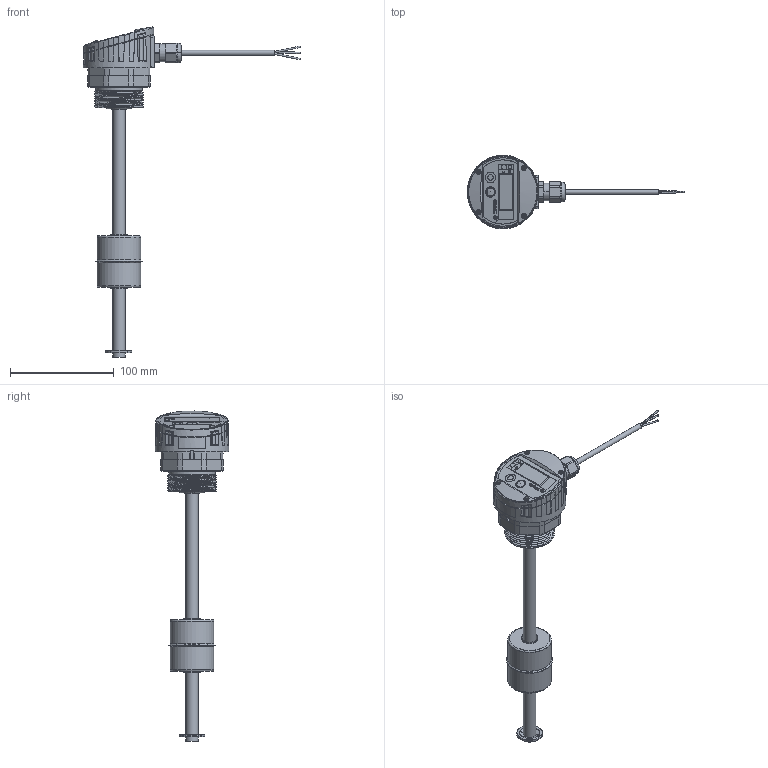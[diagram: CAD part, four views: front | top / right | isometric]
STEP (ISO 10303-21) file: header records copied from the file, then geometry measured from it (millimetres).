
FILE_DESCRIPTION(/* description */ (''),/* implementation_level */ '2;1');
FILE_NAME(/* name */ '2..3_A_1-LVL-N.stp',/* time_stamp */ '2019-12-13T10:28:29+01:00',/* author */ (''),/* organization */ (''),/* preprocessor_version */ 'ST-DEVELOPER v16',/* originating_system */ 'SIEMENS PLM Software NX 11.0',/* authorisation */ '');
FILE_SCHEMA (('AUTOMOTIVE_DESIGN { 1 0 10303 214 3 1 1 1 }'));
Products named in the file (1): pr1m01944044fv39
Bounding box: 209.25 x 70.96 x 317.98 mm (x, y, z)
Volume: 158180.8 mm3; surface area: 94292.1 mm2
Topology: 27 solids, 32 shells, 2261 faces, 5925 edges, 3832 vertices
Faces by surface type: plane 929, bspline 363, cylinder 342, extrusion 324, cone 172, torus 99, sphere 32
Full cylindrical faces by diameter (mm): 1.158 x1, 2.05 x32, 2.1 x6, 2.26 x4, 2.46 x4, 2.7 x10, 3.45 x2, 4.5 x4, 5 x1, 5.5 x1, 6 x2, 8.64 x1, 9 x2, 10 x1, 10.2 x1, 12 x1, 14 x1, 15 x2, 15.9 x1, 16 x4, 16.5 x1, 16.7 x1, 24.2 x1, 25 x1, 32 x1, 32.15 x1, 36 x1, 40.45 x1, 40.8 x1, 41.4 x2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
Entity records: 103869 total; most frequent: CARTESIAN_POINT 53686, ORIENTED_EDGE 11148, DIRECTION 8458, EDGE_CURVE 5574, VERTEX_POINT 3695, AXIS2_PLACEMENT_3D 2994, EDGE_LOOP 2567, VECTOR 2470
